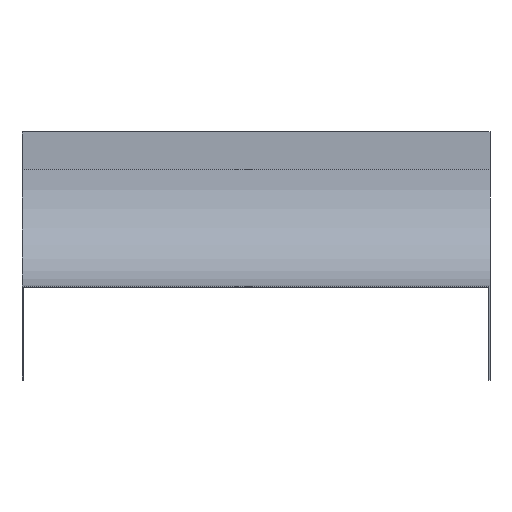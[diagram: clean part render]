
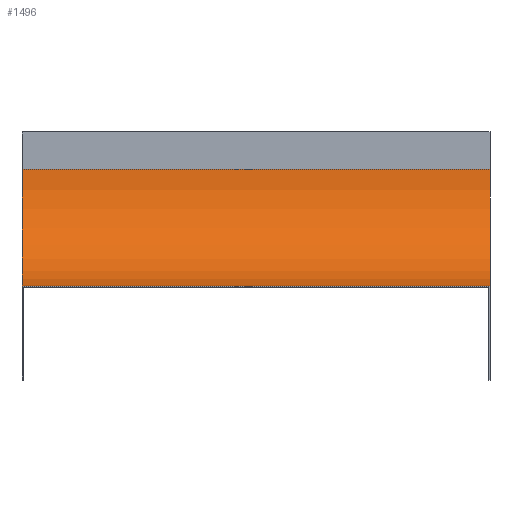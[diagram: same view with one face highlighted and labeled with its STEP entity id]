
A CAD part, front view. The second image highlights one B-rep face of the part: STEP entity #1496.
In plain terms, the highlighted cylindrical face has radius 125 mm (diameter 250 mm), a partial arc.
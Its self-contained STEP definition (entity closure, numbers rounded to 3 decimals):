
#60 = VECTOR ( 'NONE', #254, 1000. ) ;
#147 = CARTESIAN_POINT ( 'NONE',  ( -250., 0., -40. ) ) ;
#148 = CARTESIAN_POINT ( 'NONE',  ( -250., -125., -165. ) ) ;
#245 = AXIS2_PLACEMENT_3D ( 'NONE', #677, #666, #828 ) ;
#254 = DIRECTION ( 'NONE',  ( -1., 0., 0. ) ) ;
#279 = CARTESIAN_POINT ( 'NONE',  ( -250., -125., -40. ) ) ;
#347 = VECTOR ( 'NONE', #1248, 1000. ) ;
#380 = DIRECTION ( 'NONE',  ( -1., 0., 0. ) ) ;
#419 = VERTEX_POINT ( 'NONE', #147 ) ;
#429 = CIRCLE ( 'NONE', #456, 125. ) ;
#456 = AXIS2_PLACEMENT_3D ( 'NONE', #494, #380, #992 ) ;
#494 = CARTESIAN_POINT ( 'NONE',  ( 250., -125., -40. ) ) ;
#531 = ORIENTED_EDGE ( 'NONE', *, *, #827, .F. ) ;
#551 = CARTESIAN_POINT ( 'NONE',  ( 250., -125., -165. ) ) ;
#596 = EDGE_LOOP ( 'NONE', ( #1622, #531, #616, #1079 ) ) ;
#615 = VERTEX_POINT ( 'NONE', #148 ) ;
#616 = ORIENTED_EDGE ( 'NONE', *, *, #793, .F. ) ;
#666 = DIRECTION ( 'NONE',  ( -1., 0., 0. ) ) ;
#677 = CARTESIAN_POINT ( 'NONE',  ( 250., -125., -40. ) ) ;
#787 = DIRECTION ( 'NONE',  ( -1., 0., 0. ) ) ;
#793 = EDGE_CURVE ( 'NONE', #1132, #1607, #429, .T. ) ;
#827 = EDGE_CURVE ( 'NONE', #1607, #615, #1408, .T. ) ;
#828 = DIRECTION ( 'NONE',  ( 0., 0., 1. ) ) ;
#923 = CYLINDRICAL_SURFACE ( 'NONE', #245, 125. ) ;
#992 = DIRECTION ( 'NONE',  ( 0., 0., 1. ) ) ;
#1005 = LINE ( 'NONE', #1548, #60 ) ;
#1023 = AXIS2_PLACEMENT_3D ( 'NONE', #279, #787, #1303 ) ;
#1025 = EDGE_CURVE ( 'NONE', #419, #615, #1185, .T. ) ;
#1079 = ORIENTED_EDGE ( 'NONE', *, *, #1172, .T. ) ;
#1132 = VERTEX_POINT ( 'NONE', #1331 ) ;
#1172 = EDGE_CURVE ( 'NONE', #1132, #419, #1005, .T. ) ;
#1185 = CIRCLE ( 'NONE', #1023, 125. ) ;
#1248 = DIRECTION ( 'NONE',  ( -1., 0., 0. ) ) ;
#1303 = DIRECTION ( 'NONE',  ( 0., 0., 1. ) ) ;
#1331 = CARTESIAN_POINT ( 'NONE',  ( 250., 0., -40. ) ) ;
#1373 = CARTESIAN_POINT ( 'NONE',  ( 250., -125., -165. ) ) ;
#1408 = LINE ( 'NONE', #1373, #347 ) ;
#1469 = FACE_OUTER_BOUND ( 'NONE', #596, .T. ) ;
#1496 = ADVANCED_FACE ( 'NONE', ( #1469 ), #923, .F. ) ;
#1548 = CARTESIAN_POINT ( 'NONE',  ( 250., 0., -40. ) ) ;
#1607 = VERTEX_POINT ( 'NONE', #551 ) ;
#1622 = ORIENTED_EDGE ( 'NONE', *, *, #1025, .T. ) ;
